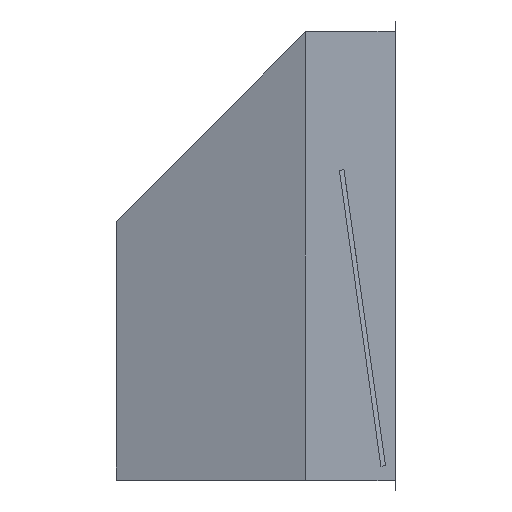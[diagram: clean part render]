
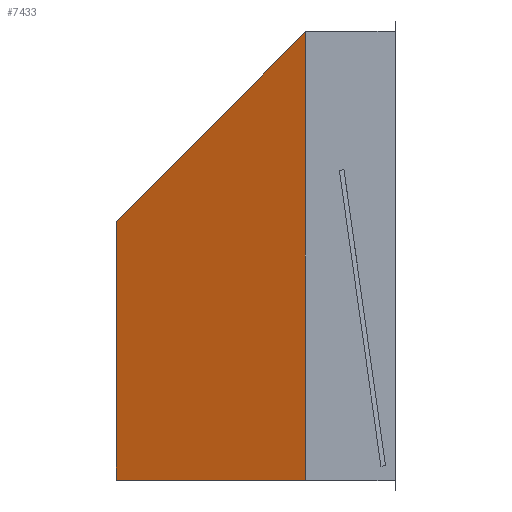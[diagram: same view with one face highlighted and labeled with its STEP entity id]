
A CAD part, left-side view. The second image highlights one B-rep face of the part: STEP entity #7433.
In plain terms, the highlighted planar face has unit normal (-0.94, 0.342, 0).
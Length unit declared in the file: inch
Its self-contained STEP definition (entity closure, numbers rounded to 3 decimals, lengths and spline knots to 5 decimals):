
#389=DIRECTION('',(-0.249,-0.685,0.685));
#390=VECTOR('',#389,13.87284);
#391=CARTESIAN_POINT('',(-22.70578,14.,13.));
#392=LINE('',#391,#390);
#505=DIRECTION('',(-0.342,-0.94,0.));
#506=VECTOR('',#505,10.10969);
#507=CARTESIAN_POINT('',(-22.70578,14.,0.));
#508=LINE('',#507,#506);
#526=DIRECTION('',(0.,0.,1.));
#527=VECTOR('',#526,13.);
#528=CARTESIAN_POINT('',(-22.70578,14.,0.));
#529=LINE('',#528,#527);
#540=DIRECTION('',(0.,0.,1.));
#541=VECTOR('',#540,22.5);
#542=CARTESIAN_POINT('',(-26.1635,4.5,0.));
#543=LINE('',#542,#541);
#6253=CARTESIAN_POINT('',(-26.1635,4.5,0.));
#6254=CARTESIAN_POINT('',(-26.1635,4.5,22.5));
#6255=VERTEX_POINT('',#6253);
#6256=VERTEX_POINT('',#6254);
#6257=CARTESIAN_POINT('',(-22.70578,14.,0.));
#6258=CARTESIAN_POINT('',(-22.70578,14.,13.));
#6259=VERTEX_POINT('',#6257);
#6260=VERTEX_POINT('',#6258);
#7421=CARTESIAN_POINT('',(-22.70578,14.,0.));
#7422=DIRECTION('',(-0.94,0.342,0.));
#7423=DIRECTION('',(-0.342,-0.94,0.));
#7424=AXIS2_PLACEMENT_3D('',#7421,#7422,#7423);
#7425=PLANE('',#7424);
#7427=ORIENTED_EDGE('',*,*,#7426,.F.);
#7428=ORIENTED_EDGE('',*,*,#7398,.F.);
#7429=ORIENTED_EDGE('',*,*,#7414,.T.);
#7430=ORIENTED_EDGE('',*,*,#7281,.T.);
#7431=EDGE_LOOP('',(#7427,#7428,#7429,#7430));
#7432=FACE_OUTER_BOUND('',#7431,.F.);
#7433=ADVANCED_FACE('',(#7432),#7425,.T.);
#7281=EDGE_CURVE('',#6260,#6256,#392,.T.);
#7398=EDGE_CURVE('',#6259,#6255,#508,.T.);
#7414=EDGE_CURVE('',#6259,#6260,#529,.T.);
#7426=EDGE_CURVE('',#6255,#6256,#543,.T.);
